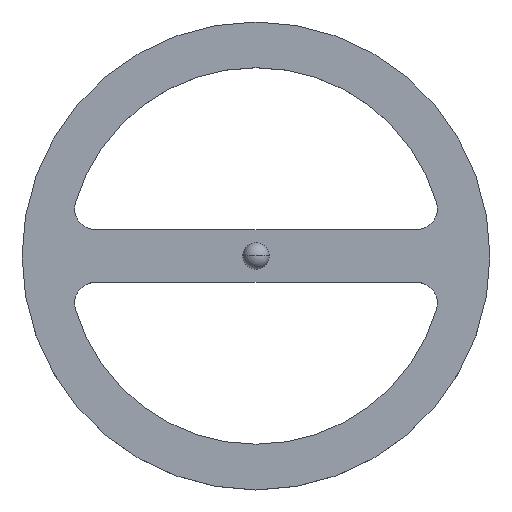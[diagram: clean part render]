
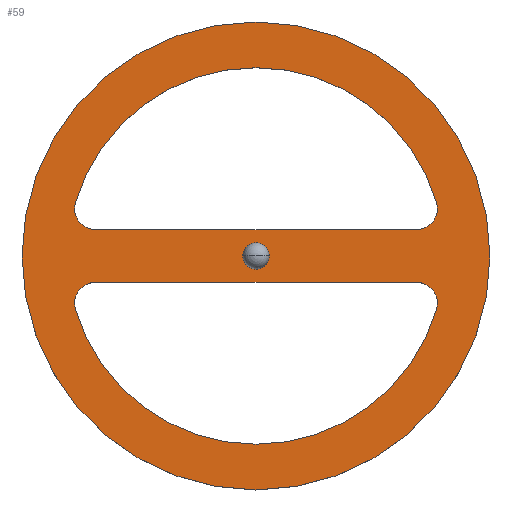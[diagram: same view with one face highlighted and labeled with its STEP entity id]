
A CAD part, top view. The second image highlights one B-rep face of the part: STEP entity #59.
In plain terms, the highlighted planar face has unit normal (0, 0, 1).
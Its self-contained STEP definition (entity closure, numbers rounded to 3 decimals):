
#59=ADVANCED_FACE('',(#89,#90,#91,#92),#93,.T.);
#89=FACE_BOUND('',#135,.T.);
#90=FACE_BOUND('',#136,.T.);
#91=FACE_OUTER_BOUND('',#137,.T.);
#92=FACE_BOUND('',#138,.T.);
#93=PLANE('',#139);
#135=EDGE_LOOP('',(#221,#222,#223,#224,#225,#226,#227));
#136=EDGE_LOOP('',(#228,#229,#230,#231,#232,#233,#234));
#137=EDGE_LOOP('',(#235,#236));
#138=EDGE_LOOP('',(#237,#238,#239));
#139=AXIS2_PLACEMENT_3D('',#240,#241,#242);
#221=ORIENTED_EDGE('',*,*,#364,.T.);
#222=ORIENTED_EDGE('',*,*,#365,.T.);
#223=ORIENTED_EDGE('',*,*,#359,.T.);
#224=ORIENTED_EDGE('',*,*,#366,.T.);
#225=ORIENTED_EDGE('',*,*,#363,.T.);
#226=ORIENTED_EDGE('',*,*,#367,.T.);
#227=ORIENTED_EDGE('',*,*,#355,.T.);
#228=ORIENTED_EDGE('',*,*,#368,.T.);
#229=ORIENTED_EDGE('',*,*,#369,.T.);
#230=ORIENTED_EDGE('',*,*,#347,.T.);
#231=ORIENTED_EDGE('',*,*,#370,.T.);
#232=ORIENTED_EDGE('',*,*,#351,.T.);
#233=ORIENTED_EDGE('',*,*,#371,.T.);
#234=ORIENTED_EDGE('',*,*,#343,.T.);
#235=ORIENTED_EDGE('',*,*,#337,.F.);
#236=ORIENTED_EDGE('',*,*,#372,.F.);
#237=ORIENTED_EDGE('',*,*,#334,.F.);
#238=ORIENTED_EDGE('',*,*,#333,.F.);
#239=ORIENTED_EDGE('',*,*,#373,.F.);
#240=CARTESIAN_POINT('',(-0.005,0.015,2.0));
#241=DIRECTION('',(0.,0.,1.0));
#242=DIRECTION('',(-1.0,0.,0.));
#333=EDGE_CURVE('',#385,#388,#389,.T.);
#334=EDGE_CURVE('',#388,#390,#391,.T.);
#337=EDGE_CURVE('',#393,#396,#397,.T.);
#343=EDGE_CURVE('',#402,#406,#408,.T.);
#347=EDGE_CURVE('',#410,#414,#416,.T.);
#351=EDGE_CURVE('',#418,#422,#424,.T.);
#355=EDGE_CURVE('',#426,#430,#432,.T.);
#359=EDGE_CURVE('',#434,#438,#440,.T.);
#363=EDGE_CURVE('',#442,#446,#448,.T.);
#364=EDGE_CURVE('',#430,#449,#450,.T.);
#365=EDGE_CURVE('',#449,#434,#451,.T.);
#366=EDGE_CURVE('',#438,#442,#452,.T.);
#367=EDGE_CURVE('',#446,#426,#453,.T.);
#368=EDGE_CURVE('',#406,#454,#455,.T.);
#369=EDGE_CURVE('',#454,#410,#456,.T.);
#370=EDGE_CURVE('',#414,#418,#457,.T.);
#371=EDGE_CURVE('',#422,#402,#458,.T.);
#372=EDGE_CURVE('',#396,#393,#459,.T.);
#373=EDGE_CURVE('',#390,#385,#460,.T.);
#385=VERTEX_POINT('',#474);
#388=VERTEX_POINT('',#477);
#389=CIRCLE('',#478,1.25);
#390=VERTEX_POINT('',#479);
#391=CIRCLE('',#480,1.25);
#393=VERTEX_POINT('',#482);
#396=VERTEX_POINT('',#486);
#397=CIRCLE('',#487,22.25);
#402=VERTEX_POINT('',#493);
#406=VERTEX_POINT('',#498);
#408=CIRCLE('',#501,2.);
#410=VERTEX_POINT('',#503);
#414=VERTEX_POINT('',#508);
#416=CIRCLE('',#511,2.);
#418=VERTEX_POINT('',#513);
#422=VERTEX_POINT('',#518);
#424=CIRCLE('',#521,17.9);
#426=VERTEX_POINT('',#523);
#430=VERTEX_POINT('',#528);
#432=CIRCLE('',#531,2.);
#434=VERTEX_POINT('',#533);
#438=VERTEX_POINT('',#538);
#440=CIRCLE('',#541,2.);
#442=VERTEX_POINT('',#543);
#446=VERTEX_POINT('',#548);
#448=CIRCLE('',#551,17.9);
#449=VERTEX_POINT('',#552);
#450=LINE('',#553,#554);
#451=CIRCLE('',#555,2.);
#452=CIRCLE('',#556,17.9);
#453=CIRCLE('',#557,2.);
#454=VERTEX_POINT('',#558);
#455=LINE('',#559,#560);
#456=CIRCLE('',#561,2.);
#457=CIRCLE('',#562,17.9);
#458=CIRCLE('',#563,2.);
#459=CIRCLE('',#564,22.25);
#460=CIRCLE('',#565,1.25);
#474=CARTESIAN_POINT('',(-1.25,0.,2.0));
#477=CARTESIAN_POINT('',(0.,-1.25,2.0));
#478=AXIS2_PLACEMENT_3D('',#586,#587,#588);
#479=CARTESIAN_POINT('',(1.25,0.,2.0));
#480=AXIS2_PLACEMENT_3D('',#589,#590,#591);
#482=CARTESIAN_POINT('',(-22.25,0.,2.0));
#486=CARTESIAN_POINT('',(22.25,0.,2.0));
#487=AXIS2_PLACEMENT_3D('',#596,#597,#598);
#493=CARTESIAN_POINT('',(16.852,3.304,2.0));
#498=CARTESIAN_POINT('',(15.25,2.501,2.0));
#501=AXIS2_PLACEMENT_3D('',#608,#609,#610);
#503=CARTESIAN_POINT('',(-16.852,3.304,2.0));
#508=CARTESIAN_POINT('',(-17.168,5.067,2.0));
#511=AXIS2_PLACEMENT_3D('',#616,#617,#618);
#513=CARTESIAN_POINT('',(0.,17.9,2.));
#518=CARTESIAN_POINT('',(17.168,5.067,2.0));
#521=AXIS2_PLACEMENT_3D('',#624,#625,#626);
#523=CARTESIAN_POINT('',(-16.852,-3.302,2.0));
#528=CARTESIAN_POINT('',(-15.25,-2.499,2.0));
#531=AXIS2_PLACEMENT_3D('',#632,#633,#634);
#533=CARTESIAN_POINT('',(16.852,-3.302,2.0));
#538=CARTESIAN_POINT('',(17.168,-5.065,2.0));
#541=AXIS2_PLACEMENT_3D('',#640,#641,#642);
#543=CARTESIAN_POINT('',(0.,-17.9,2.));
#548=CARTESIAN_POINT('',(-17.168,-5.065,2.0));
#551=AXIS2_PLACEMENT_3D('',#648,#649,#650);
#552=CARTESIAN_POINT('',(15.25,-2.499,2.0));
#553=CARTESIAN_POINT('',(7.625,-2.499,2.0));
#554=VECTOR('',#651,1.0);
#555=AXIS2_PLACEMENT_3D('',#652,#653,#654);
#556=AXIS2_PLACEMENT_3D('',#655,#656,#657);
#557=AXIS2_PLACEMENT_3D('',#658,#659,#660);
#558=CARTESIAN_POINT('',(-15.25,2.501,2.0));
#559=CARTESIAN_POINT('',(-7.625,2.501,2.0));
#560=VECTOR('',#661,1.0);
#561=AXIS2_PLACEMENT_3D('',#662,#663,#664);
#562=AXIS2_PLACEMENT_3D('',#665,#666,#667);
#563=AXIS2_PLACEMENT_3D('',#668,#669,#670);
#564=AXIS2_PLACEMENT_3D('',#671,#672,#673);
#565=AXIS2_PLACEMENT_3D('',#674,#675,#676);
#586=CARTESIAN_POINT('',(0.,0.,2.0));
#587=DIRECTION('',(0.,0.,1.0));
#588=DIRECTION('',(0.,1.0,0.));
#589=CARTESIAN_POINT('',(0.,0.,2.0));
#590=DIRECTION('',(0.,0.,1.0));
#591=DIRECTION('',(0.,1.0,0.));
#596=CARTESIAN_POINT('',(0.,0.,2.0));
#597=DIRECTION('',(0.,0.,-1.0));
#598=DIRECTION('',(-1.0,0.,0.));
#608=CARTESIAN_POINT('',(15.25,4.501,2.0));
#609=DIRECTION('',(0.,0.,-1.0));
#610=DIRECTION('',(0.801,-0.599,0.));
#616=CARTESIAN_POINT('',(-15.25,4.501,2.0));
#617=DIRECTION('',(0.0,0.,-1.0));
#618=DIRECTION('',(-0.801,-0.599,0.));
#624=CARTESIAN_POINT('',(0.,0.,2.0));
#625=DIRECTION('',(0.,0.,-1.0));
#626=DIRECTION('',(0.,1.0,0.));
#632=CARTESIAN_POINT('',(-15.25,-4.499,2.0));
#633=DIRECTION('',(0.,0.,-1.0));
#634=DIRECTION('',(-0.801,0.599,0.));
#640=CARTESIAN_POINT('',(15.25,-4.499,2.0));
#641=DIRECTION('',(0.,0.,-1.0));
#642=DIRECTION('',(0.801,0.599,0.));
#648=CARTESIAN_POINT('',(0.,0.,2.0));
#649=DIRECTION('',(0.,0.,-1.0));
#650=DIRECTION('',(0.,-1.0,0.));
#651=DIRECTION('',(1.0,0.,0.));
#652=CARTESIAN_POINT('',(15.25,-4.499,2.0));
#653=DIRECTION('',(0.,0.,-1.0));
#654=DIRECTION('',(0.801,0.599,0.));
#655=CARTESIAN_POINT('',(0.,0.,2.0));
#656=DIRECTION('',(0.,0.,-1.0));
#657=DIRECTION('',(0.,-1.0,0.));
#658=CARTESIAN_POINT('',(-15.25,-4.499,2.0));
#659=DIRECTION('',(0.,0.,-1.0));
#660=DIRECTION('',(-0.801,0.599,0.));
#661=DIRECTION('',(-1.0,0.,0.));
#662=CARTESIAN_POINT('',(-15.25,4.501,2.0));
#663=DIRECTION('',(0.0,0.,-1.0));
#664=DIRECTION('',(-0.801,-0.599,0.));
#665=CARTESIAN_POINT('',(0.,0.,2.0));
#666=DIRECTION('',(0.,0.,-1.0));
#667=DIRECTION('',(0.,1.0,0.));
#668=CARTESIAN_POINT('',(15.25,4.501,2.0));
#669=DIRECTION('',(0.,0.,-1.0));
#670=DIRECTION('',(0.801,-0.599,0.));
#671=CARTESIAN_POINT('',(0.,0.,2.0));
#672=DIRECTION('',(0.,0.,-1.0));
#673=DIRECTION('',(-1.0,0.,0.));
#674=CARTESIAN_POINT('',(0.,0.,2.0));
#675=DIRECTION('',(0.,0.,1.0));
#676=DIRECTION('',(0.,1.0,0.));
